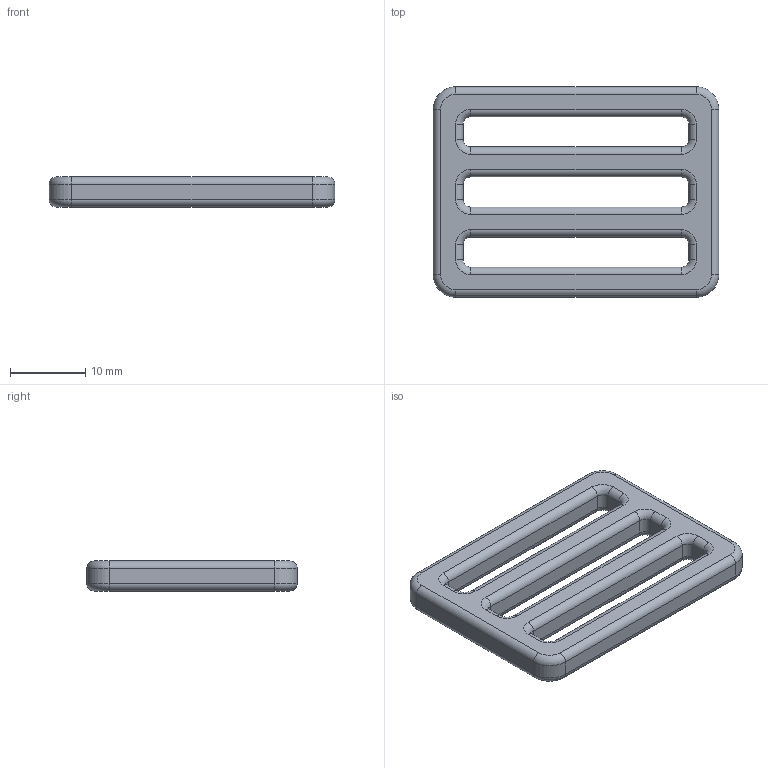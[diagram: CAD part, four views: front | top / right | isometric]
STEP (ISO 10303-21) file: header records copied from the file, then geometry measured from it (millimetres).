
FILE_DESCRIPTION(/* description */ (''),/* implementation_level */ '2;1');
FILE_NAME(/* name */ 'ladderlock2.step',/* time_stamp */ '2026-01-09T16:57:34+08:00',/* author */ (''),/* organization */ (''),/* preprocessor_version */ 'ST-DEVELOPER v20.1',/* originating_system */ 'Autodesk Translation Framework v14.21.0.0',/* authorisation */ '');
FILE_SCHEMA (('AUTOMOTIVE_DESIGN { 1 0 10303 214 3 1 1 }'));
Length unit declared in the file: millimetre
Products named in the file (1): 2026-01-08-16-17-58-057
Bounding box: 38 x 28 x 4 mm (x, y, z)
Volume: 2654.4 mm3; surface area: 2422.7 mm2
Topology: 1 solids, 1 shells, 98 faces, 224 edges, 128 vertices
Faces by surface type: cylinder 48, torus 32, plane 18
Entity records: 2789 total; most frequent: DIRECTION 550, CARTESIAN_POINT 451, ORIENTED_EDGE 448, AXIS2_PLACEMENT_3D 227, EDGE_CURVE 224, CIRCLE 128, VERTEX_POINT 128, EDGE_LOOP 104
